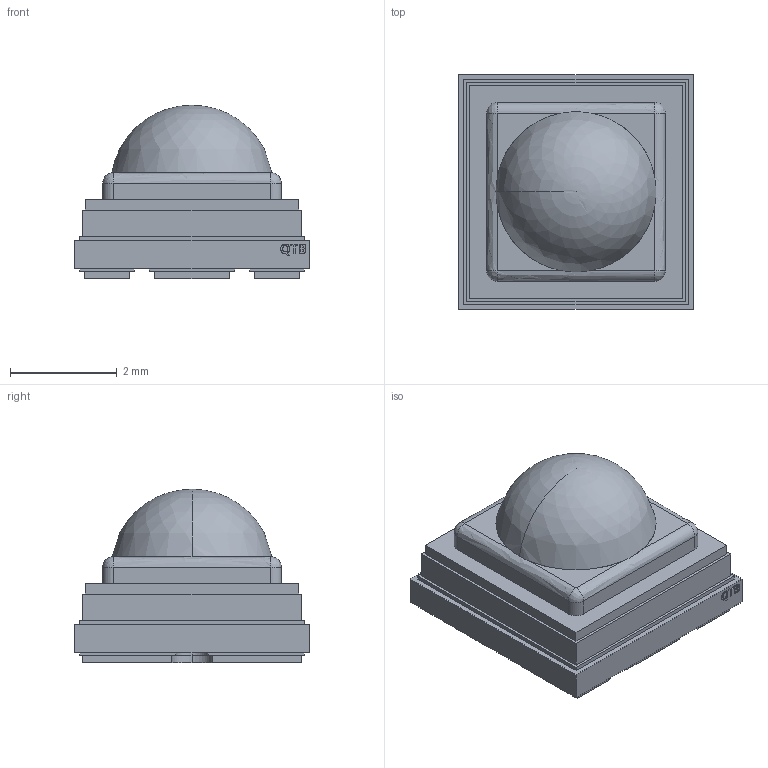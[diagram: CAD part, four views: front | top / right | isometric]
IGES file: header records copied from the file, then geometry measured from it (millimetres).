
Start section: Data from Parasolid IGES Translator 23.1.110, Copyright(c) 2006 Siemens PLM Software. All Rights Reserved.
Global section: file name: 5fab0810fb24ef1079060643.iges; native system: By Siemens PLM Incorporated; preprocessor: XPlus GENERIC/IGES 23.1.110; author: Noname; organization: Noname; date: 20201110.213720; units: metre
Bounding box: 4.4 x 4.4 x 3.25 mm (x, y, z)
Surface area: 191.7 mm2 (no closed solid volume)
Topology: 0 solids, 0 shells, 156 faces, 767 edges, 762 vertices
Faces by surface type: extrusion 135, revolution 21
